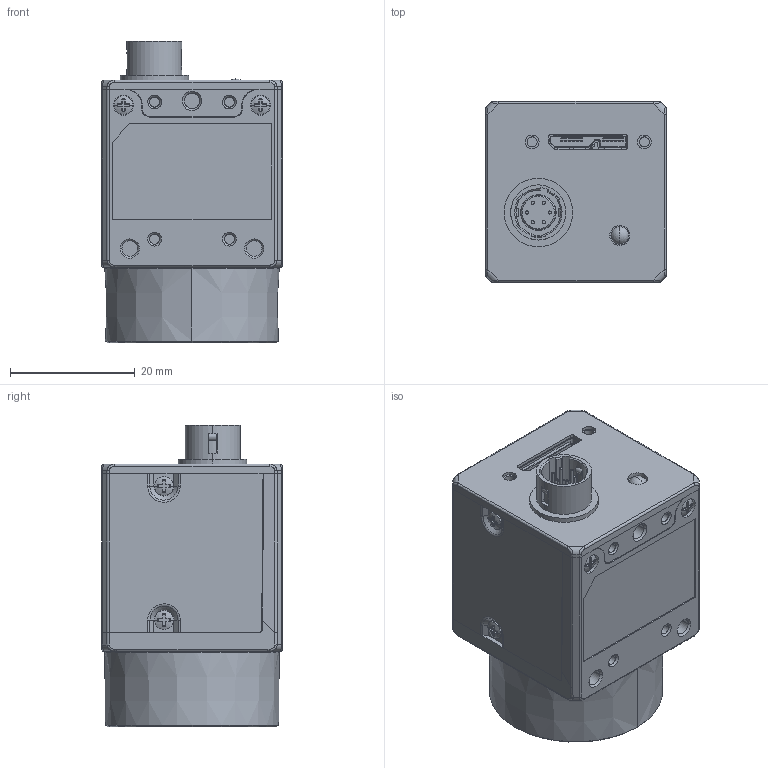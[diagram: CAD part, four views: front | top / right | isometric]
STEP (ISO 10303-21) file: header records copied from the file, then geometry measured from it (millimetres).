
FILE_DESCRIPTION((''),'2;1');
FILE_NAME('MV-CA003-21UMUC','2020-03-11T14:25:36',('wangyijun6'),(''),'CREO PARAMETRIC BY PTC INC, 2017260','CREO PARAMETRIC BY PTC INC, 2017260','');
FILE_SCHEMA(('CONFIG_CONTROL_DESIGN'));
Products named in the file (1): MV-CA003-21UMUC
Bounding box: 29.03 x 29 x 48.46 mm (x, y, z)
Volume: 26563.3 mm3; surface area: 11012.1 mm2
Topology: 1 solids, 13 shells, 1415 faces, 3738 edges, 2383 vertices
Faces by surface type: plane 580, cylinder 317, cone 191, bspline 171, torus 136, sphere 20
Entity records: 56756 total; most frequent: CARTESIAN_POINT 22418, ORIENTED_EDGE 7436, DIRECTION 6966, EDGE_CURVE 3718, AXIS2_PLACEMENT_3D 2570, VERTEX_POINT 2383, VECTOR 1826, LINE 1826
